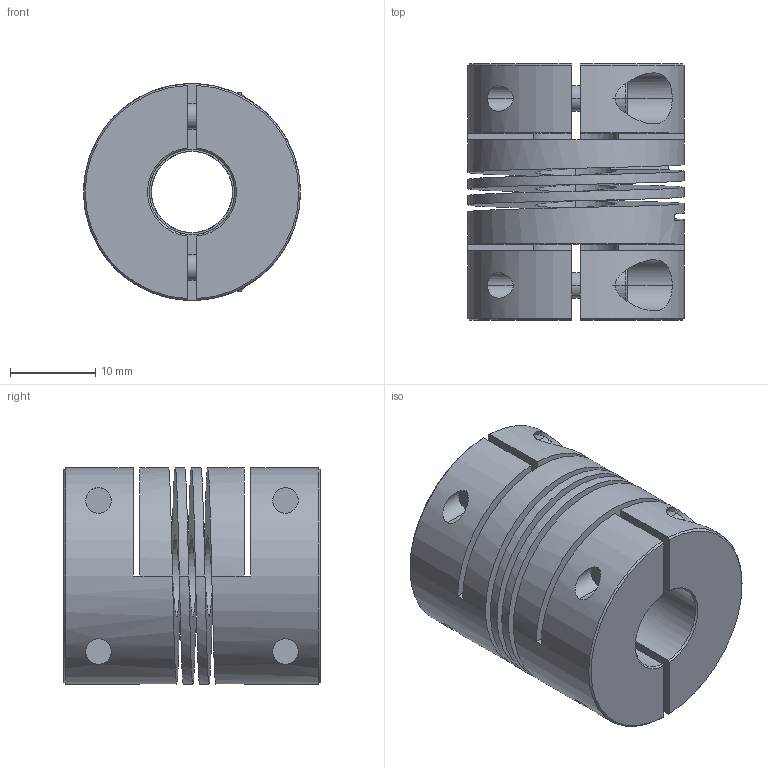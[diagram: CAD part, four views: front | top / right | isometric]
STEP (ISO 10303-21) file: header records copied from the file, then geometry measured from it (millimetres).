
FILE_DESCRIPTION((''),'2;1');
FILE_NAME('821_25','2006-12-13T',('garym'),(''),'PRO/ENGINEER BY PARAMETRIC TECHNOLOGY CORPORATION, 2006010','PRO/ENGINEER BY PARAMETRIC TECHNOLOGY CORPORATION, 2006010','');
FILE_SCHEMA(('CONFIG_CONTROL_DESIGN'));
Length unit declared in the file: millimetre
Products named in the file (1): 821_25
Bounding box: 25.4 x 30 x 25.4 mm (x, y, z)
Volume: 10775.8 mm3; surface area: 8523.9 mm2
Topology: 1 solids, 1 shells, 137 faces, 347 edges, 226 vertices
Faces by surface type: plane 68, cylinder 51, cone 16, bspline 2
Entity records: 5213 total; most frequent: CARTESIAN_POINT 1882, ORIENTED_EDGE 694, DIRECTION 651, EDGE_CURVE 347, AXIS2_PLACEMENT_3D 231, VERTEX_POINT 226, VECTOR 189, LINE 189
